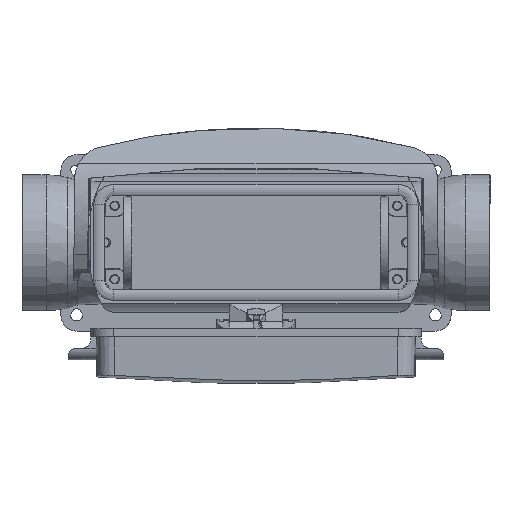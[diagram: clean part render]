
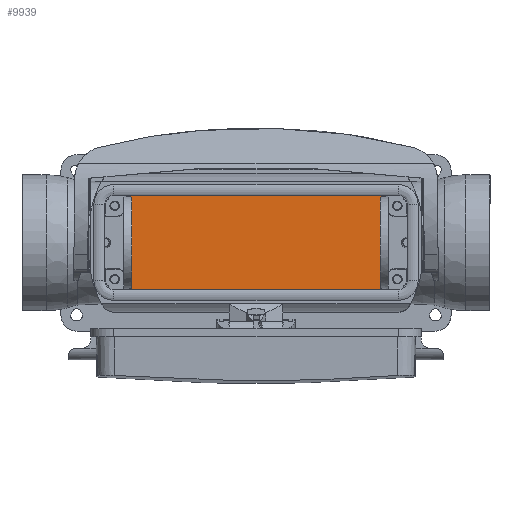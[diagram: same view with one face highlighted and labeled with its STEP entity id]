
A CAD part, top view. The second image highlights one B-rep face of the part: STEP entity #9939.
In plain terms, the highlighted planar face has unit normal (0, 0, 1).
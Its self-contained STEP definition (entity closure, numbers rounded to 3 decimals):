
#313=FACE_OUTER_BOUND('',#11433,.T.);
#1065=PLANE('',#35671);
#9939=ADVANCED_FACE('',(#313),#1065,.F.);
#11433=EDGE_LOOP('',(#12802,#12803,#12804,#12805));
#12802=ORIENTED_EDGE('',*,*,#20482,.F.);
#12803=ORIENTED_EDGE('',*,*,#20483,.T.);
#12804=ORIENTED_EDGE('',*,*,#20484,.F.);
#12805=ORIENTED_EDGE('',*,*,#20485,.T.);
#17298=VERTEX_POINT('',#46964);
#17299=VERTEX_POINT('',#46965);
#17300=VERTEX_POINT('',#46967);
#17301=VERTEX_POINT('',#46969);
#20482=EDGE_CURVE('',#17298,#17299,#27398,.T.);
#20483=EDGE_CURVE('',#17298,#17300,#27399,.T.);
#20484=EDGE_CURVE('',#17301,#17300,#27400,.T.);
#20485=EDGE_CURVE('',#17301,#17299,#27401,.T.);
#27398=LINE('',#46963,#30017);
#27399=LINE('',#46966,#30018);
#27400=LINE('',#46968,#30019);
#27401=LINE('',#46970,#30020);
#30017=VECTOR('',#38254,1.);
#30018=VECTOR('',#38255,1.);
#30019=VECTOR('',#38256,1.);
#30020=VECTOR('',#38257,1.);
#35671=AXIS2_PLACEMENT_3D('',#46971,#38258,#38259);
#38254=DIRECTION('',(0.,-1.,0.));
#38255=DIRECTION('',(-1.,0.,0.));
#38256=DIRECTION('',(0.,1.,0.));
#38257=DIRECTION('',(1.,0.,0.));
#38258=DIRECTION('',(0.,0.,-1.));
#38259=DIRECTION('',(-1.,0.,0.));
#46963=CARTESIAN_POINT('',(48.488,0.,-70.2));
#46964=CARTESIAN_POINT('',(48.488,17.425,-70.2));
#46965=CARTESIAN_POINT('',(48.488,-17.425,-70.2));
#46966=CARTESIAN_POINT('',(0.,17.425,-70.2));
#46967=CARTESIAN_POINT('',(-48.488,17.425,-70.2));
#46968=CARTESIAN_POINT('',(-48.488,-13.649,-70.2));
#46969=CARTESIAN_POINT('',(-48.488,-17.425,-70.2));
#46970=CARTESIAN_POINT('',(0.,-17.425,-70.2));
#46971=CARTESIAN_POINT('',(0.,0.,-70.2));
